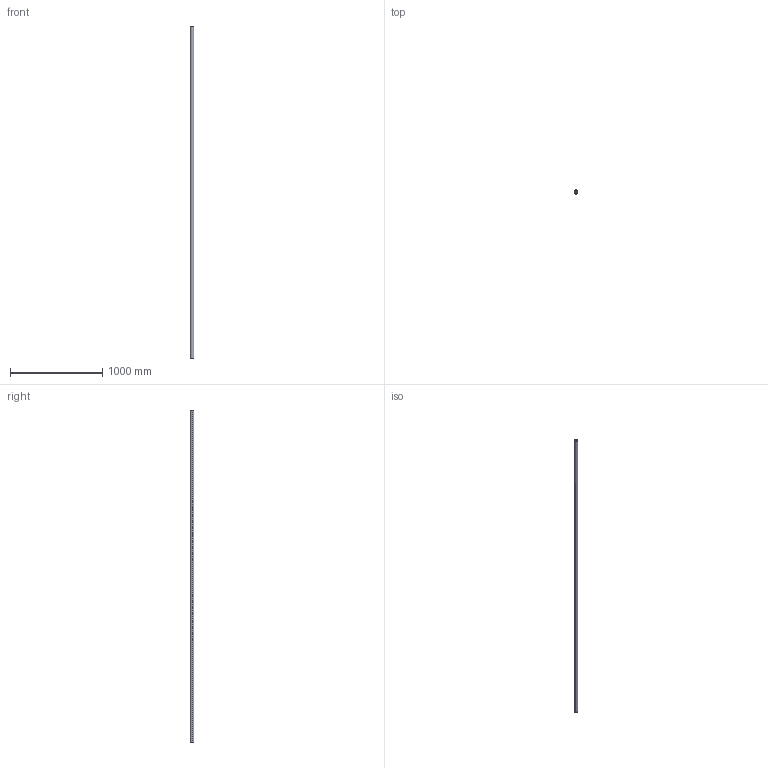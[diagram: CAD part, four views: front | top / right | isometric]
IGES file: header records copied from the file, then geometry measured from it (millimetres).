
Start section: SolidWorks IGES file using analytic representation for surfaces
Global section: file name: C:\Users\IanO\Desktop\L1771_v2\L1771.40_v2\L1771.40_v2_20230705_IGES\L1771.40-3600.igs; native system: SolidWorks 2019; preprocessor: SolidWorks 2019; author: IanO; date: 230705.162001; units: millimetre
Bounding box: 40 x 40 x 3600 mm (x, y, z)
Surface area: 770343.7 mm2 (no closed solid volume)
Topology: 0 solids, 0 shells, 6 faces, 272 edges, 272 vertices
Faces by surface type: revolution 4, bspline 2
